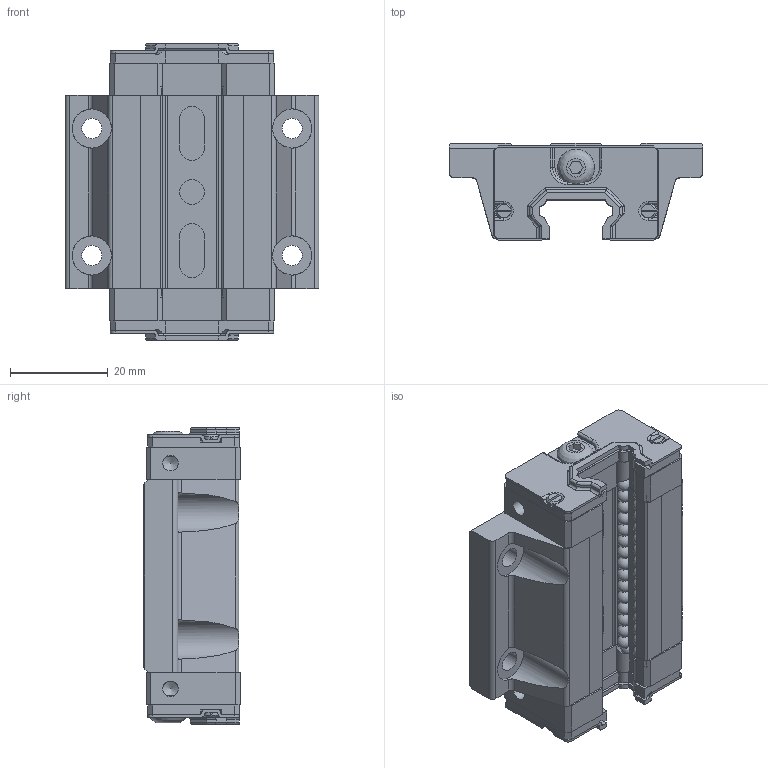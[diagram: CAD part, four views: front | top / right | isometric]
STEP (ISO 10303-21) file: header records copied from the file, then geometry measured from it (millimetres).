
FILE_DESCRIPTION(/* description */ (''),/* implementation_level */ '2;1');
FILE_NAME(/* name */ 'C:\Users\daviddillkoetter\ownCloud\Kamp und Kötter\Artikel\_CAD-Dateien\ZCF-Profilfuehrung\CE\Export\KPFW-15U-FL.stp',/* time_stamp */ '2021-03-22T15:32:18+01:00',/* author */ ('daviddillkoetter'),/* organization */ (''),/* preprocessor_version */ 'ST-DEVELOPER v18.1',/* originating_system */ 'Autodesk Inventor 2021',/* authorisation */ '');
FILE_SCHEMA (('AUTOMOTIVE_DESIGN { 1 0 10303 214 3 1 1 }'));
Length unit declared in the file: millimetre
Products named in the file (15): CE15W-CA; CE15_GrundkoeprerWagen; CE15_Kunststoffkugelsicherung; CE15_KunstoffKugelfuehrungoben; CE15_Teflonumlenker; CE15_Kunststoffkappe; CE15_Schmutzabstreifer; Screw GB 823 M2,5 x 10; DIN 920 - M2,5 x 10; CE15-Kugelkette; CE15-Kugelkette_MIR; CE15-Kugelkette_MIR1; CE15-Kugelkette_MIR_MIR; CE15_Metallabdeckung; ISO 7380-1 - M4 x 6
Assembly tree (26 placements, depth 2):
  CE15W-CA
    CE15_GrundkoeprerWagen
    CE15_Kunststoffkugelsicherung  x2
    CE15_KunstoffKugelfuehrungoben
    CE15_Teflonumlenker  x2
    CE15_Kunststoffkappe  x2
    CE15_Schmutzabstreifer  x2
    DIN 920 - M2,5 x 10  x4
    Screw GB 823 M2,5 x 10  x4
    ISO 7380-1 - M4 x 6  x2
    CE15-Kugelkette
    CE15-Kugelkette_MIR
    CE15-Kugelkette_MIR1
    CE15-Kugelkette_MIR_MIR
    CE15_Metallabdeckung  x2
Bounding box: 52 x 19.8 x 60.79 mm (x, y, z)
Volume: 33904.4 mm3; surface area: 29799.1 mm2
Topology: 158 solids, 158 shells, 1543 faces, 4185 edges, 2730 vertices
Faces by surface type: plane 832, cylinder 401, sphere 140, cone 100, torus 68, bspline 2
Full cylindrical faces by diameter (mm): 0.845 x4, 2.013 x12, 2.208 x4, 2.5 x12, 2.8 x16, 2.9 x8, 3.2 x4, 3.242 x2, 3.5 x4, 4 x2, 4.134 x4, 4.3 x16, 4.5 x6, 5 x1, 5.8 x2, 7.6 x2, 8 x4
Entity records: 28066 total; most frequent: CARTESIAN_POINT 5360, DIRECTION 4615, ORIENTED_EDGE 4290, EDGE_CURVE 2145, AXIS2_PLACEMENT_3D 1638, VERTEX_POINT 1584, LINE 1339, VECTOR 1339
